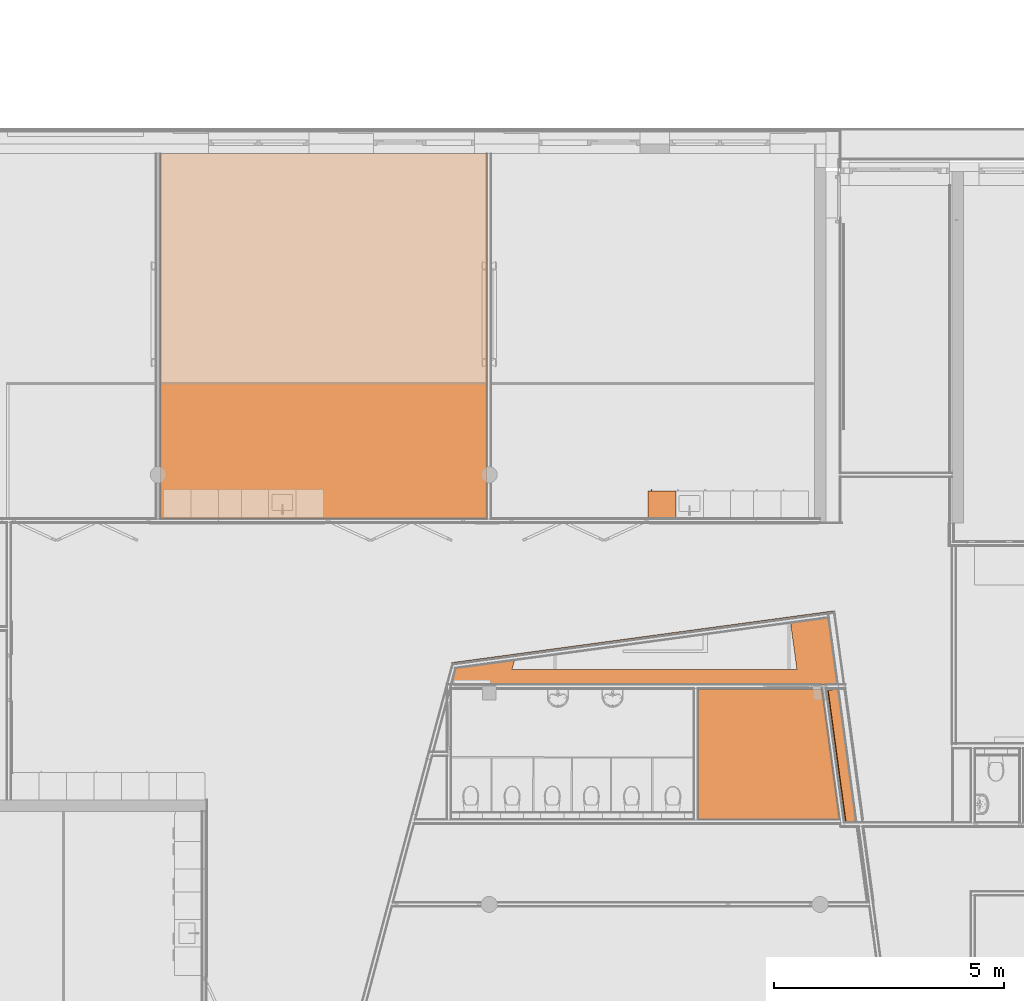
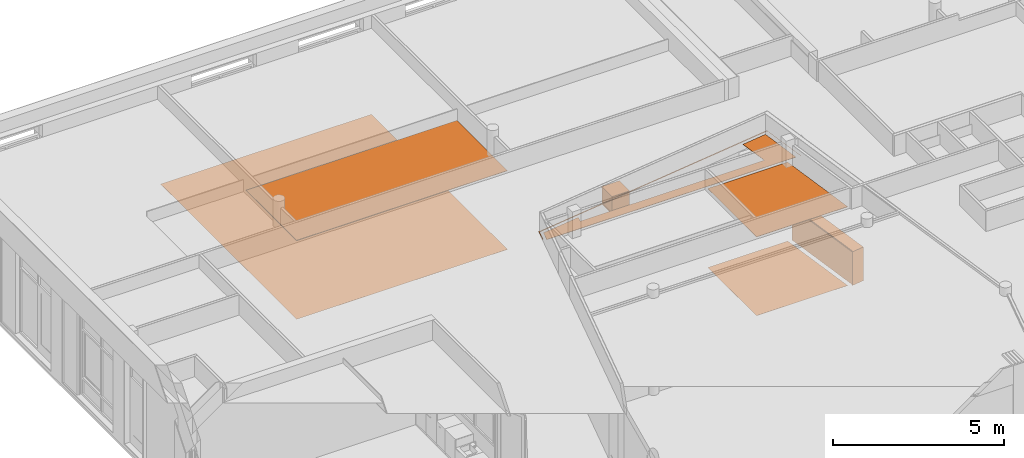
# One storey, part 133 of 167: 7 proxies, 1 opening.
"""IFC2X3 building model written with IfcOpenShell, lengths in millimetres."""

from ifc_helpers import new_model, entity, si_unit, converted_unit, derived_unit, money_unit, direction, frame, origin_with_axes, place, context, subcontext, project, spatial, faceted_brep, material, type_object, element, save


model = new_model("IFC2X3")

# Units and contexts
model_context = context("Model", 3, precision=0.01, world=origin_with_axes(), true_north=direction((0.0, 1.0)))
plan_context = context("Plan", 3, precision=0.01, world=origin_with_axes(), true_north=direction((0.0, 1.0)))
body_context = subcontext(model_context, "Body", "Model", "MODEL_VIEW")
ifc_project = project(units=[si_unit("LENGTHUNIT", "METRE", prefix="MILLI"), si_unit("AREAUNIT", "SQUARE_METRE"), si_unit("VOLUMEUNIT", "CUBIC_METRE"), converted_unit("PLANEANGLEUNIT", "DEGREE", entity("IfcPlaneAngleMeasure", 0.0174532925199), si_unit("PLANEANGLEUNIT", "RADIAN"), dimensions=[0, 0, 0, 0, 0, 0, 0]), si_unit("SOLIDANGLEUNIT", "STERADIAN"), money_unit("EUR"), converted_unit("TIMEUNIT", "Year", entity("IfcTimeMeasure", 31556926.0), si_unit("TIMEUNIT", "SECOND"), dimensions=[0, 0, 1, 0, 0, 0, 0]), si_unit("MASSUNIT", "GRAM", prefix="KILO"), si_unit("THERMODYNAMICTEMPERATUREUNIT", "DEGREE_CELSIUS"), si_unit("LUMINOUSINTENSITYUNIT", "LUMEN"), si_unit("ENERGYUNIT", "JOULE", prefix="MEGA"), derived_unit("THERMALCONDUCTANCEUNIT", [(si_unit("POWERUNIT", "WATT"), 1), (si_unit("LENGTHUNIT", "METRE"), -1), (si_unit("THERMODYNAMICTEMPERATUREUNIT", "KELVIN"), -1)]), derived_unit("SPECIFICHEATCAPACITYUNIT", [(si_unit("ENERGYUNIT", "JOULE"), 1), (si_unit("MASSUNIT", "GRAM", prefix="KILO"), -1), (si_unit("THERMODYNAMICTEMPERATUREUNIT", "KELVIN"), -1)]), derived_unit("MASSDENSITYUNIT", [(si_unit("MASSUNIT", "GRAM", prefix="KILO"), 1), (si_unit("VOLUMEUNIT", "CUBIC_METRE"), -1)])], contexts=[model_context, plan_context])

# Site, building, storey
site_placement = place(None, origin_with_axes())
site = spatial("IfcSite", under=ifc_project, at=site_placement, Name="Site", CompositionType="ELEMENT")
building_placement = place(site_placement, origin_with_axes())
building = spatial("IfcBuilding", under=site, at=building_placement, Name="Naam gebouw", CompositionType="ELEMENT")
storey_placement = place(building_placement, origin_with_axes())
storey = spatial("IfcBuildingStorey", under=building, at=storey_placement, Name="Begane grond", CompositionType="ELEMENT", Elevation=0.0)

# Proxies
building_element_proxy_type_1 = type_object("IfcBuildingElementProxyType", Name="Kast basis 1D 24", PredefinedType="NOTDEFINED")
proxy_1_placement = place(storey_placement, frame((18460.0, 42850.0, 0.0), z_axis=(0.0, 0.0, 1.0), x_axis=(-1.0, 0.0, 0.0)))
element("IfcBuildingElementProxy", 1, at=proxy_1_placement, inside=storey, type_object=building_element_proxy_type_1, Name="__Object-x", context=body_context, shape_type="Brep", body=[
    faceted_brep([(0.0, 20.0, 0.0), (580.0, 20.0, 0.0), (580.0, 20.0, 90.0), (0.0, 20.0, 90.0), (0.0, 600.0, 0.0), (580.0, 600.0, 0.0), (580.0, 600.0, 90.0), (0.0, 600.0, 90.0)], [[[0, 1, 2, 3]], [[0, 4, 5, 1]], [[1, 5, 6, 2]], [[3, 2, 6, 7]], [[4, 0, 3, 7]], [[5, 4, 7, 6]]]),
    faceted_brep([(0.0, 20.0, 580.0), (20.0, 20.0, 580.0), (20.0, 20.0, 600.0), (0.0, 20.0, 600.0), (0.0, 600.0, 580.0), (20.0, 600.0, 580.0), (560.0, 600.0, 580.0), (580.0, 600.0, 580.0), (580.0, 20.0, 580.0), (560.0, 20.0, 580.0), (560.0, 20.0, 600.0), (580.0, 20.0, 600.0), (580.0, 600.0, 600.0), (560.0, 600.0, 600.0), (20.0, 600.0, 600.0), (0.0, 600.0, 600.0)], [[[0, 1, 2, 3]], [[0, 4, 5, 6, 7, 8, 9, 1]], [[1, 9, 10, 2]], [[3, 2, 10, 11, 12, 13, 14, 15]], [[4, 0, 3, 15]], [[5, 4, 15, 14]], [[6, 5, 14, 13]], [[7, 6, 13, 12]], [[8, 7, 12, 11]], [[9, 8, 11, 10]]]),
    faceted_brep([(0.0, 20.0, 90.0), (20.0, 20.0, 90.0), (20.0, 20.0, 110.0), (0.0, 20.0, 110.0), (0.0, 600.0, 90.0), (20.0, 600.0, 90.0), (560.0, 600.0, 90.0), (580.0, 600.0, 90.0), (580.0, 20.0, 90.0), (560.0, 20.0, 90.0), (560.0, 20.0, 110.0), (580.0, 20.0, 110.0), (580.0, 600.0, 110.0), (560.0, 600.0, 110.0), (20.0, 600.0, 110.0), (0.0, 600.0, 110.0)], [[[0, 1, 2, 3]], [[0, 4, 5, 6, 7, 8, 9, 1]], [[1, 9, 10, 2]], [[3, 2, 10, 11, 12, 13, 14, 15]], [[4, 0, 3, 15]], [[5, 4, 15, 14]], [[6, 5, 14, 13]], [[7, 6, 13, 12]], [[8, 7, 12, 11]], [[9, 8, 11, 10]]]),
    faceted_brep([(0.0, 20.0, 110.0), (20.0, 20.0, 110.0), (20.0, 20.0, 580.0), (0.0, 20.0, 580.0), (0.0, 600.0, 110.0), (580.0, 600.0, 110.0), (580.0, 20.0, 110.0), (560.0, 20.0, 110.0), (560.0, 580.0, 110.0), (20.0, 580.0, 110.0), (20.0, 580.0, 580.0), (560.0, 580.0, 580.0), (560.0, 20.0, 580.0), (580.0, 20.0, 580.0), (580.0, 600.0, 580.0), (0.0, 600.0, 580.0)], [[[0, 1, 2, 3]], [[0, 4, 5, 6, 7, 8, 9, 1]], [[1, 9, 10, 2]], [[3, 2, 10, 11, 12, 13, 14, 15]], [[4, 0, 3, 15]], [[5, 4, 15, 14]], [[6, 5, 14, 13]], [[7, 6, 13, 12]], [[8, 7, 12, 11]], [[9, 8, 11, 10]]]),
    faceted_brep([(560.0, 20.0, 325.0), (560.0, 580.0, 325.0), (560.0, 580.0, 345.0), (560.0, 20.0, 345.0), (20.0, 20.0, 325.0), (20.0, 580.0, 325.0), (20.0, 580.0, 345.0), (20.0, 20.0, 345.0)], [[[0, 1, 2, 3]], [[0, 4, 5, 1]], [[1, 5, 6, 2]], [[3, 2, 6, 7]], [[4, 0, 3, 7]], [[5, 4, 7, 6]]]),
    faceted_brep([(0.0, 0.0, 600.0), (600.0, 0.0, 600.0), (600.0, 0.0, 650.0), (0.0, 0.0, 650.0), (0.0, 600.0, 600.0), (600.0, 600.0, 600.0), (600.0, 600.0, 650.0), (0.0, 600.0, 650.0)], [[[0, 1, 2, 3]], [[0, 4, 5, 1]], [[1, 5, 6, 2]], [[3, 2, 6, 7]], [[4, 0, 3, 7]], [[5, 4, 7, 6]]]),
    faceted_brep([(1.5, 20.0, 91.5), (578.5, 20.0, 91.5), (578.5, 0.0, 91.5), (1.5, 0.0, 91.5), (1.5, 20.0, 598.5), (578.5, 20.0, 598.5), (578.5, 0.0, 598.5), (1.5, 0.0, 598.5)], [[[0, 1, 2, 3]], [[0, 4, 5, 1]], [[1, 5, 6, 2]], [[3, 2, 6, 7]], [[4, 0, 3, 7]], [[5, 4, 7, 6]]]),
    faceted_brep([(539.58655439, 0.0, 636.907798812), (536.985281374, 0.0, 633.014718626), (533.092201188, 0.0, 630.41344561), (528.5, 0.0, 629.5), (523.907798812, 0.0, 630.41344561), (520.014718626, 0.0, 633.014718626), (517.41344561, 0.0, 636.907798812), (516.5, 0.0, 641.5), (517.41344561, 0.0, 646.092201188), (520.014718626, 0.0, 649.985281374), (523.907798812, 0.0, 652.58655439), (528.5, 0.0, 653.5), (533.092201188, 0.0, 652.58655439), (536.985281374, 0.0, 649.985281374), (539.58655439, 0.0, 646.092201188), (540.5, 0.0, 641.5), (539.58655439, -25.0, 636.907798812), (536.985281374, -25.0, 633.014718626), (533.092201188, -25.0, 630.41344561), (528.5, -25.0, 629.5), (523.907798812, -25.0, 630.41344561), (520.014718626, -25.0, 633.014718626), (517.41344561, -25.0, 636.907798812), (516.5, -25.0, 641.5), (517.41344561, -25.0, 646.092201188), (520.014718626, -25.0, 649.985281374), (523.907798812, -25.0, 652.58655439), (528.5, -25.0, 653.5), (533.092201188, -25.0, 652.58655439), (536.985281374, -25.0, 649.985281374), (539.58655439, -25.0, 646.092201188), (540.5, -25.0, 641.5)], [[[0, 1, 2, 3, 4, 5, 6, 7, 8, 9, 10, 11, 12, 13, 14, 15]], [[1, 0, 16, 17]], [[2, 1, 17, 18]], [[3, 2, 18, 19]], [[4, 3, 19, 20]], [[5, 4, 20, 21]], [[6, 5, 21, 22]], [[7, 6, 22, 23]], [[8, 7, 23, 24]], [[9, 8, 24, 25]], [[10, 9, 25, 26]], [[11, 10, 26, 27]], [[12, 11, 27, 28]], [[13, 12, 28, 29]], [[14, 13, 29, 30]], [[15, 14, 30, 31]], [[0, 15, 31, 16]], [[16, 31, 30, 29, 28, 27, 26, 25, 24, 23, 22, 21, 20, 19, 18, 17]]]),
    faceted_brep([(580.0, 21.5, 91.5), (580.0, 598.5, 91.5), (600.0, 598.5, 91.5), (600.0, 21.5, 91.5), (580.0, 21.5, 598.5), (580.0, 598.5, 598.5), (600.0, 598.5, 598.5), (600.0, 21.5, 598.5)], [[[0, 1, 2, 3]], [[0, 4, 5, 1]], [[1, 5, 6, 2]], [[3, 2, 6, 7]], [[4, 0, 3, 7]], [[5, 4, 7, 6]]]),
])
ifc_material_1 = material(Name="ALG - BINNENAFWERKING")
building_element_proxy_type_2 = type_object("IfcBuildingElementProxyType", Name="ALG - BINNENAFWERKING 10", PredefinedType="NOTDEFINED")
proxy_2_placement = place(storey_placement, frame((7250.0, 42250.0, 2800.0), z_axis=(0.0, 0.0, 1.0), x_axis=(1.0, 0.0, 0.0)))
element("IfcBuildingElementProxy", 2, at=proxy_2_placement, inside=storey, type_object=building_element_proxy_type_2, material=ifc_material_1, Name="23__Vloer-x", context=body_context, shape_type="Brep", body=[
    faceted_brep([(0.0, 0.0, 10.0), (0.0, 0.0, 0.0), (7100.0, 0.0, 0.0), (7100.0, 0.0, 10.0), (0.0, 2950.0, 10.0), (0.0, 2950.0, 0.0), (7100.0, 2950.0, 0.0), (7100.0, 2950.0, 10.0)], [[[0, 1, 2, 3]], [[4, 5, 1, 0]], [[2, 1, 5, 6]], [[3, 2, 6, 7]], [[4, 0, 3, 7]], [[7, 6, 5, 4]]]),
])
proxy_3_placement = place(storey_placement, frame((18948.7746129, 38539.2116284, 2800.0), z_axis=(0.0, 0.0, 1.0), x_axis=(1.0, 0.0, 0.0)))
element("IfcBuildingElementProxy", 3, at=proxy_3_placement, inside=storey, type_object=building_element_proxy_type_2, material=ifc_material_1, Name="23__Vloer-x", context=body_context, shape_type="Brep", body=[
    faceted_brep([(0.0, 0.0, 10.0), (0.0, 0.0, 0.0), (0.0, -2837.51502748, 0.0), (0.0, -2837.51502748, 10.0), (2689.34658104, 0.0, 10.0), (2689.34658104, 0.0, 0.0), (3073.65547059, -2837.51502748, 0.0), (3073.65547059, -2837.51502748, 10.0)], [[[0, 1, 2, 3]], [[4, 5, 1, 0]], [[2, 1, 5, 6]], [[3, 2, 6, 7]], [[4, 0, 3, 7]], [[7, 6, 5, 4]]]),
])

# Proxy, opening
proxy_4_placement = place(storey_placement, frame((21918.3963421, 40243.8078943, 2800.0), z_axis=(0.0, 0.0, 1.0), x_axis=(1.0, 0.0, 0.0)))
proxy_4 = element("IfcBuildingElementProxy", 4, at=proxy_4_placement, inside=storey, type_object=building_element_proxy_type_2, material=ifc_material_1, Name="23__Vloer-x", context=body_context, shape_type="Brep", body=[
    faceted_brep([(-8336.80883708, -1129.12520833, 10.0), (-8438.32901849, -1604.59626597, 10.0), (-8323.98118894, -1177.84435638, 10.0), (-8320.47396449, -1164.75521653, 10.0), (-0.13061814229, -37.8600702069, 10.0), (1.54704631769, -50.2469762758, 10.0), (212.06584312, -1604.59626597, 10.0), (218.355137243, -1604.59626597, 10.0), (0.0, 0.0, 10.0), (-8336.80883708, -1129.12520833, 0.0), (-8438.32901849, -1604.59626597, 0.0), (-8323.98118894, -1177.84435638, 0.0), (-8320.47396449, -1164.75521653, 0.0), (-0.13061814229, -37.8600702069, 0.0), (1.54704631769, -50.2469762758, 0.0), (212.06584312, -1604.59626597, 0.0), (218.355137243, -1604.59626597, 0.0), (0.0, 0.0, 0.0)], [[[0, 1, 2, 3, 4, 5, 6, 7, 8]], [[9, 10, 1, 0]], [[10, 11, 2, 1]], [[3, 2, 11, 12]], [[12, 13, 4, 3]], [[13, 14, 5, 4]], [[14, 15, 6, 5]], [[7, 6, 15, 16]], [[8, 7, 16, 17]], [[0, 8, 17, 9]], [[12, 11, 10, 9, 17, 16, 15, 14, 13]]]),
    faceted_brep([(-6967.96109965, -1082.48586215, 0.0), (-8241.10557634, -1254.91868994, 0.0), (-8241.10557634, -1254.91868994, 10.0), (-6967.96109965, -1082.48586215, 10.0), (60.6963252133, -1604.59626597, 0.0), (-8334.80140045, -1604.59626597, 0.0), (-7020.78069241, -1279.61126597, 0.0), (-822.674847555, -1279.61126597, 0.0), (-959.588396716, -268.720641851, 0.0), (-135.352175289, -157.087292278, 0.0), (-8334.80140045, -1604.59626597, 10.0), (60.6963252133, -1604.59626597, 10.0), (-135.352175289, -157.087292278, 10.0), (-959.588396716, -268.720641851, 10.0), (-822.674847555, -1279.61126597, 10.0), (-7020.78069241, -1279.61126597, 10.0)], [[[0, 1, 2, 3]], [[4, 5, 1, 0, 6, 7, 8, 9]], [[5, 10, 2, 1]], [[3, 2, 10, 11, 12, 13, 14, 15]], [[6, 0, 3, 15]], [[11, 10, 5, 4]], [[15, 14, 7, 6]], [[14, 13, 8, 7]], [[13, 12, 9, 8]], [[9, 12, 11, 4]]]),
])
opening_placement = place(proxy_4_placement, origin_with_axes())
element("IfcOpeningElement", 5, at=opening_placement, cuts=proxy_4, Name="Slab Opening", context=body_context, shape_type="Brep", body=[
    faceted_brep([(-6967.96109965, -1082.48586215, 10.0), (-7020.78069241, -1279.61126597, 10.0), (-822.674847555, -1279.61126597, 10.0), (-959.588396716, -268.720641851, 10.0), (-6967.96109965, -1082.48586215, 0.0), (-7020.78069241, -1279.61126597, 0.0), (-822.674847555, -1279.61126597, 0.0), (-959.588396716, -268.720641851, 0.0)], [[[0, 1, 2, 3]], [[1, 0, 4, 5]], [[2, 1, 5, 6]], [[3, 2, 6, 7]], [[4, 0, 3, 7]], [[5, 4, 7, 6]]]),
])

# Proxies
building_element_proxy_type_3 = type_object("IfcBuildingElementProxyType", Name="Boekenplank 01 24", PredefinedType="NOTDEFINED")
proxy_5_placement = place(storey_placement, frame((22543.1425226, 35690.0383478, 0.0), z_axis=(0.0, 0.0, 1.0), x_axis=(-0.134213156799, 0.990952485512, 0.0)))
element("IfcBuildingElementProxy", 6, at=proxy_5_placement, inside=storey, type_object=building_element_proxy_type_3, Name="__Object-x", context=body_context, shape_type="Brep", body=[
    faceted_brep([(2878.02858193, 400.0, 20.0), (2878.02858193, 400.0, 1180.0), (2878.02858193, 380.0, 1180.0), (2878.02858193, 380.0, 20.0), (20.0, 400.0, 20.0), (20.0, 400.0, 1180.0), (20.0, 380.0, 1180.0), (20.0, 380.0, 20.0)], [[[0, 1, 2, 3]], [[4, 5, 1, 0]], [[1, 5, 6, 2]], [[3, 2, 6, 7]], [[0, 3, 7, 4]], [[7, 6, 5, 4]]]),
    faceted_brep([(2878.02858193, 380.0, 0.0), (2878.02858193, 380.0, 30.0), (2878.02858193, 0.0, 30.0), (2878.02858193, 0.0, 0.0), (20.0, 380.0, 0.0), (20.0, 380.0, 30.0), (20.0, 0.0, 30.0), (20.0, 0.0, 0.0)], [[[0, 1, 2, 3]], [[4, 5, 1, 0]], [[1, 5, 6, 2]], [[3, 2, 6, 7]], [[0, 3, 7, 4]], [[7, 6, 5, 4]]]),
    faceted_brep([(2878.02858193, 380.0, 1170.0), (2878.02858193, 380.0, 1200.0), (2878.02858193, 0.0, 1200.0), (2878.02858193, 0.0, 1170.0), (20.0, 380.0, 1170.0), (20.0, 380.0, 1200.0), (20.0, 0.0, 1200.0), (20.0, 0.0, 1170.0)], [[[0, 1, 2, 3]], [[4, 5, 1, 0]], [[1, 5, 6, 2]], [[3, 2, 6, 7]], [[0, 3, 7, 4]], [[7, 6, 5, 4]]]),
    faceted_brep([(20.0, 0.0, 0.0), (20.0, 0.0, 1200.0), (0.0, 0.0, 1200.0), (0.0, 0.0, 0.0), (20.0, 400.0, 0.0), (20.0, 400.0, 1200.0), (0.0, 400.0, 1200.0), (0.0, 400.0, 0.0)], [[[0, 1, 2, 3]], [[4, 5, 1, 0]], [[1, 5, 6, 2]], [[3, 2, 6, 7]], [[0, 3, 7, 4]], [[7, 6, 5, 4]]]),
    faceted_brep([(2878.02858193, 400.0, 0.0), (2878.02858193, 400.0, 1200.0), (2898.02858193, 400.0, 1200.0), (2898.02858193, 400.0, 0.0), (2878.02858193, 0.0, 0.0), (2878.02858193, 0.0, 1200.0), (2898.02858193, 0.0, 1200.0), (2898.02858193, 0.0, 0.0)], [[[0, 1, 2, 3]], [[4, 5, 1, 0]], [[1, 5, 6, 2]], [[3, 2, 6, 7]], [[0, 3, 7, 4]], [[7, 6, 5, 4]]]),
])
ifc_material_2 = material(Name="_TenW_43_Marmoleum Salsa Verde")
building_element_proxy_type_4 = type_object("IfcBuildingElementProxyType", Name="_TenW_43_Marmoleum Salsa Verde 2", PredefinedType="NOTDEFINED")
proxy_6_placement = place(storey_placement, frame((18948.7746129, 35701.6966009, 0.0), z_axis=(0.0, 0.0, 1.0), x_axis=(1.0, 0.0, 0.0)))
element("IfcBuildingElementProxy", 7, at=proxy_6_placement, inside=storey, type_object=building_element_proxy_type_4, material=ifc_material_2, Name="23__Vloer-x", context=body_context, shape_type="Brep", body=[
    faceted_brep([(0.0, 0.0, 2.0), (0.0, 0.0, 0.0), (3073.65547059, 0.0, 0.0), (3073.65547059, 0.0, 2.0), (0.0, 2837.51502748, 2.0), (0.0, 2837.51502748, 0.0), (2689.34659292, 2837.51502748, 0.0), (2689.34659292, 2837.51502748, 2.0)], [[[0, 1, 2, 3]], [[4, 5, 1, 0]], [[2, 1, 5, 6]], [[3, 2, 6, 7]], [[4, 0, 3, 7]], [[7, 6, 5, 4]]]),
])
proxy_7_placement = place(storey_placement, frame((7250.0, 42250.0, 0.0), z_axis=(0.0, 0.0, 1.0), x_axis=(1.0, 0.0, 0.0)))
element("IfcBuildingElementProxy", 8, at=proxy_7_placement, inside=storey, type_object=building_element_proxy_type_4, material=ifc_material_2, Name="23__Vloer-x", context=body_context, shape_type="Brep", body=[
    faceted_brep([(0.0, 0.0, 2.0), (0.0, 0.0, 0.0), (7100.0, 0.0, 0.0), (7100.0, 0.0, 2.0), (0.0, 7936.0, 2.0), (0.0, 7936.0, 0.0), (7100.0, 7936.0, 0.0), (7100.0, 7936.0, 2.0)], [[[0, 1, 2, 3]], [[4, 5, 1, 0]], [[2, 1, 5, 6]], [[3, 2, 6, 7]], [[4, 0, 3, 7]], [[7, 6, 5, 4]]]),
])

save(model, "model.ifc")
